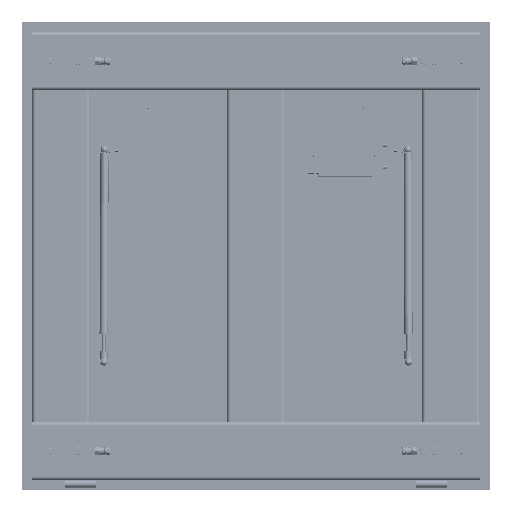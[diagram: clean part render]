
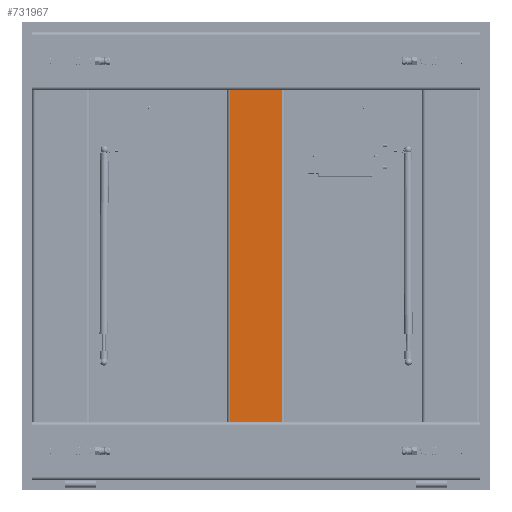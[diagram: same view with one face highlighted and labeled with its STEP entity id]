
A CAD part, front view. The second image highlights one B-rep face of the part: STEP entity #731967.
In plain terms, the highlighted planar face has unit normal (0, -1, 0).
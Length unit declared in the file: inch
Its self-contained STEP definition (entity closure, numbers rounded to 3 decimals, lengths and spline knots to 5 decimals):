
#73887 = VECTOR ( 'NONE', #337573, 39.37008 ) ;
#77276 = EDGE_CURVE ( 'NONE', #626617, #632482, #753395, .T. ) ;
#102401 = PLANE ( 'NONE',  #241852 ) ;
#115595 = VECTOR ( 'NONE', #658435, 39.37008 ) ;
#152695 = LINE ( 'NONE', #634658, #630007 ) ;
#225459 = CARTESIAN_POINT ( 'NONE',  ( 34., -1.5, -2.625 ) ) ;
#236456 = EDGE_CURVE ( 'NONE', #632482, #529285, #718545, .T. ) ;
#241852 = AXIS2_PLACEMENT_3D ( 'NONE', #225459, #625925, #335923 ) ;
#248795 = CARTESIAN_POINT ( 'NONE',  ( 34., -1.5, 2.625 ) ) ;
#281020 = ORIENTED_EDGE ( 'NONE', *, *, #480325, .F. ) ;
#302891 = DIRECTION ( 'NONE',  ( -1., 0., 0. ) ) ;
#335923 = DIRECTION ( 'NONE',  ( 0., 0., -1. ) ) ;
#337573 = DIRECTION ( 'NONE',  ( 0., 0., 1. ) ) ;
#362807 = DIRECTION ( 'NONE',  ( 0., 0., 1. ) ) ;
#380072 = EDGE_CURVE ( 'NONE', #626617, #746065, #427832, .T. ) ;
#385413 = CARTESIAN_POINT ( 'NONE',  ( 0., -1.5, 2.625 ) ) ;
#399312 = EDGE_LOOP ( 'NONE', ( #281020, #513629, #690094, #465305 ) ) ;
#427832 = LINE ( 'NONE', #545425, #115595 ) ;
#465305 = ORIENTED_EDGE ( 'NONE', *, *, #236456, .T. ) ;
#480325 = EDGE_CURVE ( 'NONE', #746065, #529285, #152695, .T. ) ;
#494426 = CARTESIAN_POINT ( 'NONE',  ( 34., -1.5, 2.625 ) ) ;
#512132 = CARTESIAN_POINT ( 'NONE',  ( 34., -1.5, -2.625 ) ) ;
#513629 = ORIENTED_EDGE ( 'NONE', *, *, #380072, .F. ) ;
#525062 = CARTESIAN_POINT ( 'NONE',  ( 34., -1.5, -2.625 ) ) ;
#529285 = VERTEX_POINT ( 'NONE', #385413 ) ;
#545425 = CARTESIAN_POINT ( 'NONE',  ( 34., -1.5, -2.625 ) ) ;
#550734 = CARTESIAN_POINT ( 'NONE',  ( 0., -1.5, -2.625 ) ) ;
#562533 = VECTOR ( 'NONE', #302891, 39.37008 ) ;
#585456 = FACE_OUTER_BOUND ( 'NONE', #399312, .T. ) ;
#625925 = DIRECTION ( 'NONE',  ( 0., -1., 0. ) ) ;
#626617 = VERTEX_POINT ( 'NONE', #525062 ) ;
#630007 = VECTOR ( 'NONE', #362807, 39.37008 ) ;
#632482 = VERTEX_POINT ( 'NONE', #494426 ) ;
#634658 = CARTESIAN_POINT ( 'NONE',  ( 0., -1.5, -2.625 ) ) ;
#658435 = DIRECTION ( 'NONE',  ( -1., 0., 0. ) ) ;
#690094 = ORIENTED_EDGE ( 'NONE', *, *, #77276, .T. ) ;
#718545 = LINE ( 'NONE', #248795, #562533 ) ;
#731967 = ADVANCED_FACE ( 'NONE', ( #585456 ), #102401, .T. ) ;
#746065 = VERTEX_POINT ( 'NONE', #550734 ) ;
#753395 = LINE ( 'NONE', #512132, #73887 ) ;
